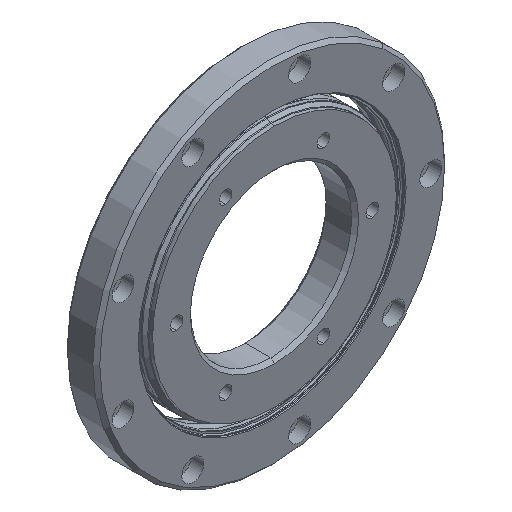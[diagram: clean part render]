
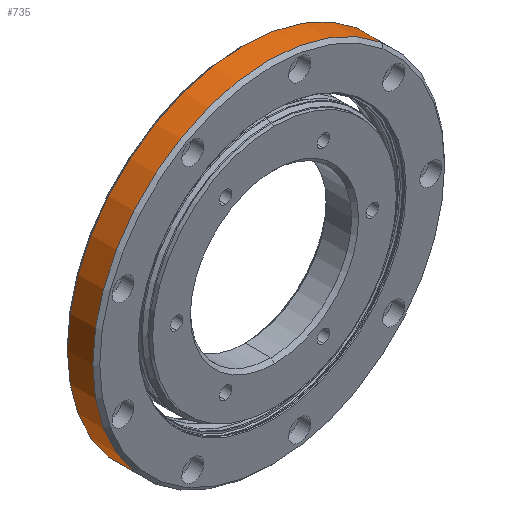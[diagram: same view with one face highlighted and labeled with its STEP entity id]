
A CAD part, isometric view. The second image highlights one B-rep face of the part: STEP entity #735.
In plain terms, the highlighted cylindrical face has radius 76.2 mm (diameter 152.4 mm), a partial arc.
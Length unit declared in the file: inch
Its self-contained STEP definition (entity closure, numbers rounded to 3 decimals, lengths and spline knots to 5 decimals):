
#185 = EDGE_CURVE ( 'NONE', #3442, #3338, #305, .T. ) ;
#248 = DIRECTION ( 'NONE',  ( 0., -1., 0. ) ) ;
#305 = LINE ( 'NONE', #4126, #1018 ) ;
#392 = EDGE_CURVE ( 'NONE', #3442, #3064, #3977, .T. ) ;
#671 = EDGE_CURVE ( 'NONE', #3492, #3338, #2994, .T. ) ;
#735 = ADVANCED_FACE ( 'NONE', ( #3483 ), #3370, .T. ) ;
#919 = EDGE_LOOP ( 'NONE', ( #2685, #1758, #3517, #2583 ) ) ;
#1018 = VECTOR ( 'NONE', #248, 39.37008 ) ;
#1078 = CARTESIAN_POINT ( 'NONE',  ( 0., 0.5315, 3. ) ) ;
#1140 = AXIS2_PLACEMENT_3D ( 'NONE', #1638, #3760, #1653 ) ;
#1416 = DIRECTION ( 'NONE',  ( 0., 0., -1. ) ) ;
#1638 = CARTESIAN_POINT ( 'NONE',  ( 0., 0., 0. ) ) ;
#1653 = DIRECTION ( 'NONE',  ( 0., 0., -1. ) ) ;
#1758 = ORIENTED_EDGE ( 'NONE', *, *, #392, .T. ) ;
#1771 = DIRECTION ( 'NONE',  ( 0., 1., 0. ) ) ;
#1848 = DIRECTION ( 'NONE',  ( 0., 0., -1. ) ) ;
#2014 = AXIS2_PLACEMENT_3D ( 'NONE', #2585, #2250, #1848 ) ;
#2250 = DIRECTION ( 'NONE',  ( 0., -1., 0. ) ) ;
#2465 = CARTESIAN_POINT ( 'NONE',  ( 0., 0.09843, 0. ) ) ;
#2583 = ORIENTED_EDGE ( 'NONE', *, *, #671, .T. ) ;
#2585 = CARTESIAN_POINT ( 'NONE',  ( 0., 0.5315, 0. ) ) ;
#2586 = CARTESIAN_POINT ( 'NONE',  ( 0., 0., -3. ) ) ;
#2681 = EDGE_CURVE ( 'NONE', #3064, #3492, #3920, .T. ) ;
#2685 = ORIENTED_EDGE ( 'NONE', *, *, #185, .F. ) ;
#2994 = CIRCLE ( 'NONE', #3589, 3. ) ;
#3048 = CARTESIAN_POINT ( 'NONE',  ( 0., 0.09843, 3. ) ) ;
#3064 = VERTEX_POINT ( 'NONE', #3267 ) ;
#3267 = CARTESIAN_POINT ( 'NONE',  ( 0., 0.5315, -3. ) ) ;
#3338 = VERTEX_POINT ( 'NONE', #3048 ) ;
#3370 = CYLINDRICAL_SURFACE ( 'NONE', #1140, 3. ) ;
#3442 = VERTEX_POINT ( 'NONE', #1078 ) ;
#3483 = FACE_OUTER_BOUND ( 'NONE', #919, .T. ) ;
#3492 = VERTEX_POINT ( 'NONE', #3578 ) ;
#3517 = ORIENTED_EDGE ( 'NONE', *, *, #2681, .T. ) ;
#3578 = CARTESIAN_POINT ( 'NONE',  ( 0., 0.09843, -3. ) ) ;
#3589 = AXIS2_PLACEMENT_3D ( 'NONE', #2465, #1771, #1416 ) ;
#3645 = DIRECTION ( 'NONE',  ( 0., -1., 0. ) ) ;
#3701 = VECTOR ( 'NONE', #3645, 39.37008 ) ;
#3760 = DIRECTION ( 'NONE',  ( 0., -1., 0. ) ) ;
#3920 = LINE ( 'NONE', #2586, #3701 ) ;
#3977 = CIRCLE ( 'NONE', #2014, 3. ) ;
#4126 = CARTESIAN_POINT ( 'NONE',  ( 0., 0., 3. ) ) ;
